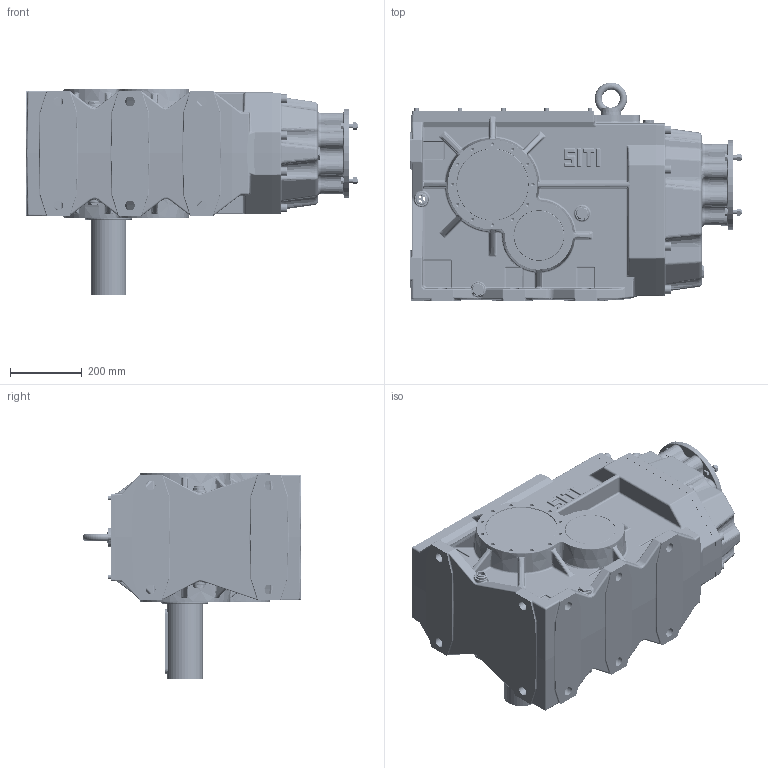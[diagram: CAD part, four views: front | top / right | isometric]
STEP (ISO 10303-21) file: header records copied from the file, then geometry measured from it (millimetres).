
FILE_DESCRIPTION((''),'2;1');
FILE_NAME('O:\Figurini\Figurini BH\3D\180\MBHGC 180 MS-A GR 100-112 B5.stp','2013-05-23T11:13:42',('d.iannaccio'),(''),'Autodesk Inventor 2012','Autodesk Inventor 2012','');
FILE_SCHEMA(('AUTOMOTIVE_DESIGN { 1 0 10303 214 1 1 1 1 }'));
Length unit declared in the file: millimetre
Products named in the file (1): MBHGC_180 MS-A GR 100-112 B5
Bounding box: 925.5 x 609.94 x 575 mm (x, y, z)
Volume: 41117922.1 mm3; surface area: 4359823.7 mm2
Topology: 3 solids, 63 shells, 4165 faces, 9917 edges, 5920 vertices
Faces by surface type: cylinder 1310, plane 1159, bspline 719, torus 446, cone 337, sphere 194
Full cylindrical faces by diameter (mm): 2.4 x1, 6.647 x13, 8 x25, 9 x12, 10 x18, 10.106 x24, 10.5 x2, 12 x24, 13 x20, 13.835 x8, 14 x4, 16 x8, 17 x9, 17.25 x2, 18 x9, 19.6 x1, 20 x4, 20.5 x8, 20.752 x2, 21 x2, 22 x1, 24 x8, 24.117 x8, 25 x1, 26 x1, 26.5 x2, 27 x10, 31 x7, 31.9 x1, 40 x1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
Entity records: 142732 total; most frequent: CARTESIAN_POINT 49860, DIRECTION 18274, ORIENTED_EDGE 17870, EDGE_CURVE 8935, AXIS2_PLACEMENT_3D 7567, VERTEX_POINT 5633, EDGE_LOOP 5040, STYLED_ITEM 4166
